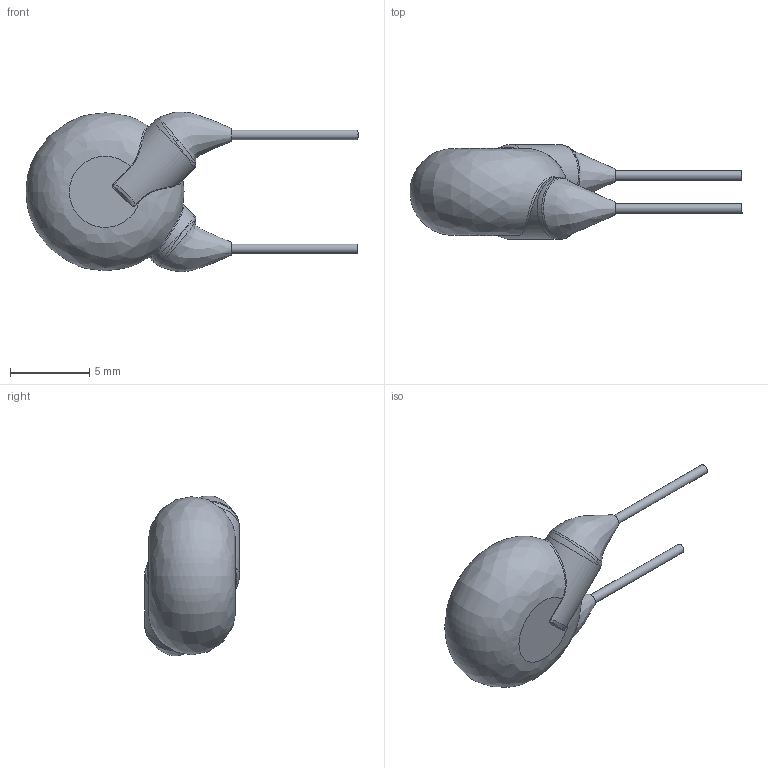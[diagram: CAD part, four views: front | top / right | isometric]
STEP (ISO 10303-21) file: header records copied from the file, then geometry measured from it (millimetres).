
FILE_DESCRIPTION(/* description */ (''),/* implementation_level */ '2;1');
FILE_NAME(/* name */ 'I:\Marketing\M6t1\3D-Models\Zchng-Werk-3\Upload for homepage\Roederstein\VKO\Y5U_300-440\VKO222MCQCD0KR\VKO222MCQCD0KR.stp',/* time_stamp */ '2018-03-15T10:46:30+01:00',/* author */ ('sheinrich'),/* organization */ (''),/* preprocessor_version */ 'ST-DEVELOPER v16.1',/* originating_system */ 'Autodesk Inventor 2016',/* authorisation */ '');
FILE_SCHEMA (('AUTOMOTIVE_DESIGN { 1 0 10303 214 3 1 1 }'));
Length unit declared in the file: centimetre
Products named in the file (1): VKO222MCQCD0KR
Bounding box: 21 x 6 x 10.11 mm (x, y, z)
Volume: 411.5 mm3; surface area: 345.7 mm2
Topology: 1 solids, 1 shells, 36 faces, 81 edges, 45 vertices
Faces by surface type: bspline 19, cylinder 9, plane 6, torus 2
Full cylindrical faces by diameter (mm): 0.6 x2, 3.9 x2
Entity records: 2360 total; most frequent: CARTESIAN_POINT 1670, ORIENTED_EDGE 138, DIRECTION 94, EDGE_CURVE 69, AXIS2_PLACEMENT_3D 43, VERTEX_POINT 42, EDGE_LOOP 41, STYLED_ITEM 36
